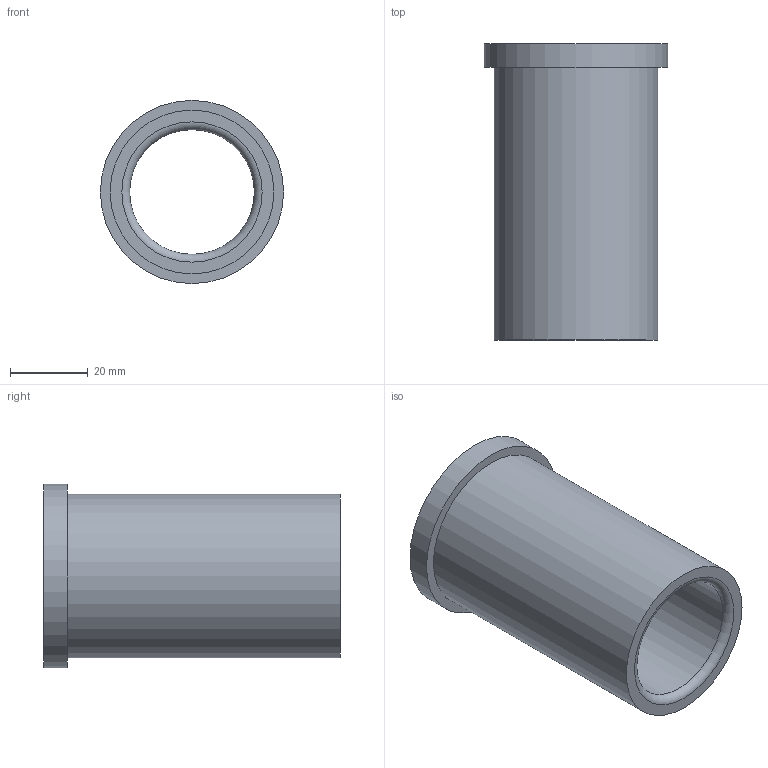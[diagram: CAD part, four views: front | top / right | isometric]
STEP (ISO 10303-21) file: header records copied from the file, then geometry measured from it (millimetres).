
FILE_DESCRIPTION(/* description */ ('STEP AP214'),/* implementation_level */ '2;1');
FILE_NAME(/* name */ '03_12_17949',/* time_stamp */ '2023-06-15T11:35:41+02:00',/* author */ ('License CC BY-ND 4.0'),/* organization */ ('CADENAS'),/* preprocessor_version */ 'ST-DEVELOPER v19.3',/* originating_system */ 'PARTsolutions',/* authorisation */ ' ');
FILE_SCHEMA (('AUTOMOTIVE_DESIGN {1 0 10303 214 3 1 1}'));
Length unit declared in the file: millimetre
Products named in the file (1): VA_Bushing_17949
Bounding box: 47 x 76 x 47 mm (x, y, z)
Volume: 45626.1 mm3; surface area: 19482 mm2
Topology: 1 solids, 1 shells, 10 faces, 16 edges, 10 vertices
Faces by surface type: cylinder 4, plane 4, torus 2
Full cylindrical faces by diameter (mm): 32 x1, 32.6 x1, 42 x1, 47 x1
Entity records: 302 total; most frequent: DIRECTION 42, CARTESIAN_POINT 31, AXIS2_PLACEMENT_3D 21, ORIENTED_EDGE 20, EDGE_LOOP 20, FACE_BOUND 20, EDGE_CURVE 10, VERTEX_POINT 10
